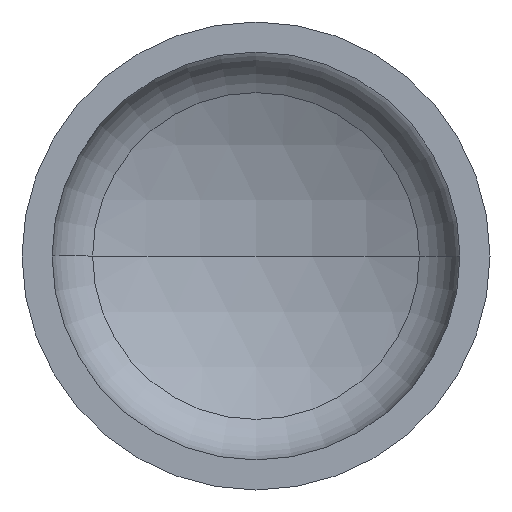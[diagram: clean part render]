
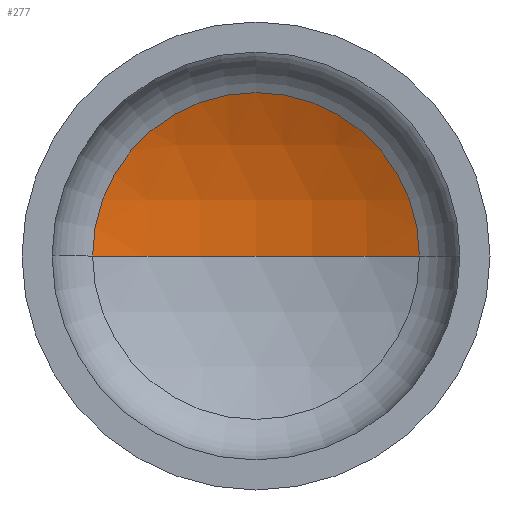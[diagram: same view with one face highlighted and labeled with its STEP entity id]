
A CAD part, front view. The second image highlights one B-rep face of the part: STEP entity #277.
In plain terms, the highlighted spherical face has radius 1120 mm.
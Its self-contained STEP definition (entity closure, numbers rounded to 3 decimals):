
#8 = CARTESIAN_POINT ( 'NONE',  ( 488.84, 293.44, 0. ) ) ;
#20 = AXIS2_PLACEMENT_3D ( 'NONE', #176, #48, #382 ) ;
#25 = EDGE_LOOP ( 'NONE', ( #59, #39, #173 ) ) ;
#38 = AXIS2_PLACEMENT_3D ( 'NONE', #249, #270, #41 ) ;
#39 = ORIENTED_EDGE ( 'NONE', *, *, #101, .T. ) ;
#40 = AXIS2_PLACEMENT_3D ( 'NONE', #199, #409, #275 ) ;
#41 = DIRECTION ( 'NONE',  ( 1., 0., 0. ) ) ;
#42 = AXIS2_PLACEMENT_3D ( 'NONE', #213, #210, #212 ) ;
#48 = DIRECTION ( 'NONE',  ( 0., 0., -1. ) ) ;
#50 = VERTEX_POINT ( 'NONE', #300 ) ;
#59 = ORIENTED_EDGE ( 'NONE', *, *, #102, .F. ) ;
#97 = EDGE_CURVE ( 'NONE', #121, #156, #225, .T. ) ;
#101 = EDGE_CURVE ( 'NONE', #50, #121, #144, .T. ) ;
#102 = EDGE_CURVE ( 'NONE', #50, #156, #344, .T. ) ;
#121 = VERTEX_POINT ( 'NONE', #8 ) ;
#144 = CIRCLE ( 'NONE', #40, 1120. ) ;
#156 = VERTEX_POINT ( 'NONE', #218 ) ;
#173 = ORIENTED_EDGE ( 'NONE', *, *, #97, .T. ) ;
#176 = CARTESIAN_POINT ( 'NONE',  ( 0., -714.248, 0. ) ) ;
#199 = CARTESIAN_POINT ( 'NONE',  ( 0., -714.248, 0. ) ) ;
#210 = DIRECTION ( 'NONE',  ( 0., -1., 0. ) ) ;
#212 = DIRECTION ( 'NONE',  ( 1., 0., 0. ) ) ;
#213 = CARTESIAN_POINT ( 'NONE',  ( 0., 293.44, 0. ) ) ;
#218 = CARTESIAN_POINT ( 'NONE',  ( -488.84, 293.44, 0. ) ) ;
#225 = CIRCLE ( 'NONE', #42, 488.84 ) ;
#249 = CARTESIAN_POINT ( 'NONE',  ( 0., -714.248, 0. ) ) ;
#266 = FACE_OUTER_BOUND ( 'NONE', #25, .T. ) ;
#270 = DIRECTION ( 'NONE',  ( 0., 0., 1. ) ) ;
#275 = DIRECTION ( 'NONE',  ( -1., 0., 0. ) ) ;
#277 = ADVANCED_FACE ( 'NONE', ( #266 ), #384, .F. ) ;
#300 = CARTESIAN_POINT ( 'NONE',  ( 0., 405.752, 0. ) ) ;
#344 = CIRCLE ( 'NONE', #38, 1120. ) ;
#382 = DIRECTION ( 'NONE',  ( -1., 0., 0. ) ) ;
#384 = SPHERICAL_SURFACE ( 'NONE', #20, 1120. ) ;
#409 = DIRECTION ( 'NONE',  ( 0., 0., -1. ) ) ;
